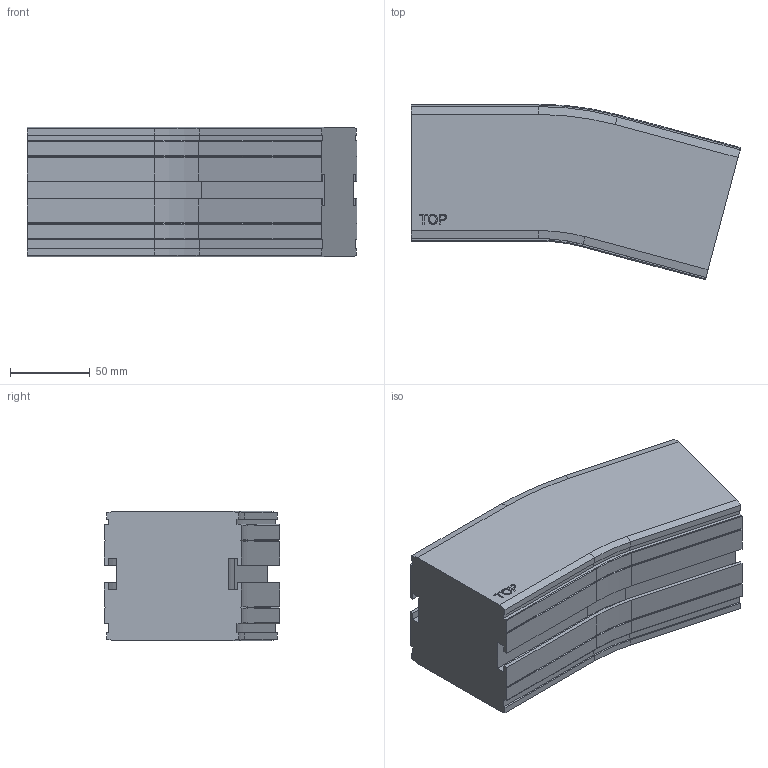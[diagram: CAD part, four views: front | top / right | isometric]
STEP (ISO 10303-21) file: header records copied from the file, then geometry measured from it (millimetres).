
FILE_DESCRIPTION((''),'2;1');
FILE_NAME('C:\Vault Klient\Projekt\Koncept konstruktion\Serie 830 Balk\830-5080.stp','2009-11-27T08:10:38',('Mathias'),(''),'Autodesk Inventor 2010','Autodesk Inventor 2010','');
FILE_SCHEMA(('AUTOMOTIVE_DESIGN { 1 0 10303 214 1 1 1 1 }'));
Length unit declared in the file: millimetre
Products named in the file (1): 830-5080
Bounding box: 207.23 x 110.35 x 81.5 mm (x, y, z)
Volume: 1324521.3 mm3; surface area: 94722.9 mm2
Topology: 1 solids, 1 shells, 169 faces, 446 edges, 284 vertices
Faces by surface type: plane 109, cylinder 30, bspline 14, cone 12, torus 4
Entity records: 5295 total; most frequent: CARTESIAN_POINT 1094, ORIENTED_EDGE 892, DIRECTION 802, EDGE_CURVE 446, VECTOR 346, LINE 346, VERTEX_POINT 284, AXIS2_PLACEMENT_3D 228
